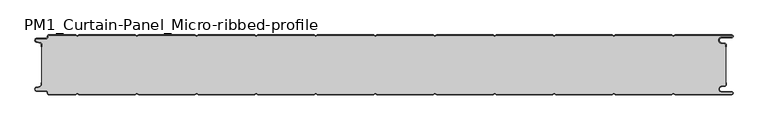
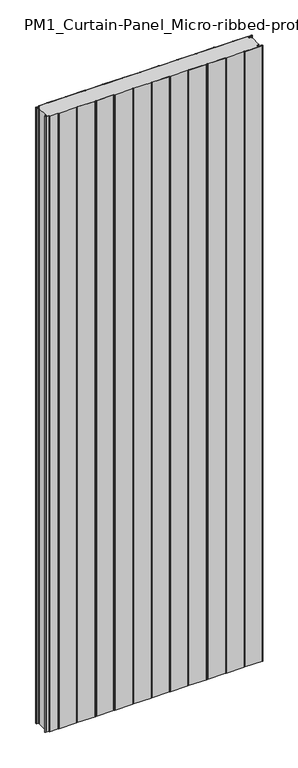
"""IFC4 building model written with IfcOpenShell, lengths in millimetres: plate geometry, PM1_Curtain-Panel_Micro-ribbed-profile : ACH_PM1_Stone-wool-Panel_100M."""

from ifc_helpers import new_model, si_unit, point, frame_2d, origin, origin_with_axes, place, context, project, spatial, polyline, circle_curve, trimmed, segment, composite_curve, outline, extrude, source, transform, mapped, element, save


def pm1_curtain_panel_micro_ribbed_profile_67889fbb(model_context):
    return source(origin(), model_context, "Body", "SweptSolid", [
        extrude(outline(composite_curve([segment(trimmed(circle_curve(frame_2d((-577.0, -15.878557)), 2.0), [point((-575.0, -15.878557))], [point((-576.5500978, -13.9298169))], True, "CARTESIAN"), True, "CONTINUOUS"), segment(polyline([(-576.5500978, -13.9298169), (-582.7098239, -12.507732)]), True, "CONTINUOUS"), segment(trimmed(circle_curve(frame_2d((-581.9, -9.0)), 3.6), [point((-582.7098239, -12.507732))], [point((-581.9, -5.4))], False, "CARTESIAN"), True, "CONTINUOUS"), segment(polyline([(-581.9, -5.4), (-566.4, -5.4)]), True, "CONTINUOUS"), segment(trimmed(circle_curve(frame_2d((-566.4, -3.4)), 2.0), [point((-566.4, -5.4))], [point((-564.4, -3.4))], True, "CARTESIAN"), True, "CONTINUOUS"), segment(polyline([(-564.4, -3.4), (-564.4, -2.0)]), True, "CONTINUOUS"), segment(trimmed(circle_curve(frame_2d((-562.4, -2.0)), 2.0), [point((-564.4, -2.0))], [point((-562.4, 0.0))], False, "CARTESIAN"), True, "CONTINUOUS"), segment(polyline([(-562.4, 0.0), (-517.0999995, 0.0), (-514.4, -1.5588455), (-511.7000005, 0.0), (-417.0999995, 0.0), (-414.4, -1.5588455), (-411.7000005, 0.0), (-317.0999995, 0.0), (-314.4, -1.5588455), (-311.7000005, 0.0), (-217.0999995, 0.0), (-214.4, -1.5588455), (-211.7000005, 0.0), (-117.0999995, 0.0), (-114.4, -1.5588455), (-111.7000005, 0.0), (-17.0999995, 0.0), (-14.4, -1.5588455), (-11.7000005, 0.0), (82.9000005, 0.0), (85.6, -1.5588455), (88.2999995, 0.0), (182.9000005, 0.0), (185.6, -1.5588455), (188.2999995, 0.0), (282.9000005, 0.0), (285.6, -1.5588455), (288.2999995, 0.0), (382.9000005, 0.0), (385.6, -1.5588455), (388.2999995, 0.0), (482.9000005, 0.0), (485.6, -1.5588455), (488.2999995, 0.0), (583.1, 0.0)]), True, "CONTINUOUS"), segment(trimmed(circle_curve(frame_2d((583.1, -2.5)), 2.5), [point((583.1, 0.0))], [point((583.1, -5.0))], False, "CARTESIAN"), True, "CONTINUOUS"), segment(polyline([(583.1, -5.0), (566.1, -5.0)]), True, "CONTINUOUS"), segment(trimmed(circle_curve(frame_2d((566.1, -9.0)), 4.0), [point((566.1, -5.0))], [point((565.405407, -12.939231))], True, "CARTESIAN"), True, "CONTINUOUS"), segment(polyline([(565.405407, -12.939231), (571.8514855, -14.0758491)]), True, "CONTINUOUS"), segment(trimmed(circle_curve(frame_2d((571.4, -16.6363492)), 2.6), [point((571.8514855, -14.0758491))], [point((574.0, -16.6363492))], False, "CARTESIAN"), True, "CONTINUOUS"), segment(polyline([(574.0, -16.6363492), (574.0, -20.0), (573.2, -20.0), (573.2, -16.6363492)]), True, "CONTINUOUS"), segment(trimmed(circle_curve(frame_2d((571.4, -16.6363492)), 1.8), [point((573.2, -16.6363492))], [point((571.7125669, -14.8636953))], True, "CARTESIAN"), True, "CONTINUOUS"), segment(polyline([(571.7125669, -14.8636953), (565.2664884, -13.7270772)]), True, "CONTINUOUS"), segment(trimmed(circle_curve(frame_2d((566.1, -9.0)), 4.8), [point((565.2664884, -13.7270772))], [point((566.1, -4.2))], False, "CARTESIAN"), True, "CONTINUOUS"), segment(polyline([(566.1, -4.2), (583.1, -4.2)]), True, "CONTINUOUS"), segment(trimmed(circle_curve(frame_2d((583.1, -2.5)), 1.7), [point((583.1, -4.2))], [point((583.1, -0.8))], True, "CARTESIAN"), True, "CONTINUOUS"), segment(polyline([(583.1, -0.8), (488.5143588, -0.8), (485.6, -2.482606), (482.6856412, -0.8), (388.5143588, -0.8), (385.6, -2.482606), (382.6856412, -0.8), (288.5143588, -0.8), (285.6, -2.482606), (282.6856412, -0.8), (188.5143588, -0.8), (185.6, -2.482606), (182.6856412, -0.8), (88.5143588, -0.8), (85.6, -2.482606), (82.6856412, -0.8), (-11.4856412, -0.8), (-14.4, -2.482606), (-17.3143588, -0.8), (-111.4856412, -0.8), (-114.4, -2.482606), (-117.3143588, -0.8), (-211.4856412, -0.8), (-214.4, -2.482606), (-217.3143588, -0.8), (-311.4856412, -0.8), (-314.4, -2.482606), (-317.3143588, -0.8), (-411.4856412, -0.8), (-414.4, -2.482606), (-417.3143588, -0.8), (-511.4856412, -0.8), (-514.4, -2.482606), (-517.3143588, -0.8), (-562.4, -0.8)]), True, "CONTINUOUS"), segment(trimmed(circle_curve(frame_2d((-562.4, -2.0)), 1.2), [point((-562.4, -0.8))], [point((-563.6, -2.0))], True, "CARTESIAN"), True, "CONTINUOUS"), segment(polyline([(-563.6, -2.0), (-563.6, -3.4)]), True, "CONTINUOUS"), segment(trimmed(circle_curve(frame_2d((-566.4, -3.4)), 2.8), [point((-563.6, -3.4))], [point((-566.4, -6.2))], False, "CARTESIAN"), True, "CONTINUOUS"), segment(polyline([(-566.4, -6.2), (-581.9, -6.2)]), True, "CONTINUOUS"), segment(trimmed(circle_curve(frame_2d((-581.9, -9.0)), 2.8), [point((-581.9, -6.2))], [point((-582.529863, -11.7282362))], True, "CARTESIAN"), True, "CONTINUOUS"), segment(polyline([(-582.529863, -11.7282362), (-576.370137, -13.150321)]), True, "CONTINUOUS"), segment(trimmed(circle_curve(frame_2d((-577.0, -15.878557)), 2.8), [point((-576.370137, -13.150321))], [point((-574.2, -15.878557))], False, "CARTESIAN"), True, "CONTINUOUS"), segment(polyline([(-574.2, -15.878557), (-574.2, -20.0), (-575.0, -20.0), (-575.0, -15.878557)]), True, "CONTINUOUS")], self_intersect=False)), origin_with_axes(), (0.0, 0.0, 1.0), 3500.0),
        extrude(outline(composite_curve([segment(polyline([(-574.2, -84.1214426), (-574.2, -15.8785573)]), True, "CONTINUOUS"), segment(trimmed(circle_curve(frame_2d((-577.0, -15.8785573)), 2.8), [point((-574.2, -15.8785573))], [point((-576.370137, -13.1503212))], True, "CARTESIAN"), True, "CONTINUOUS"), segment(polyline([(-576.370137, -13.1503212), (-582.5298631, -11.7282362)]), True, "CONTINUOUS"), segment(trimmed(circle_curve(frame_2d((-581.9, -9.0)), 2.8), [point((-582.5298631, -11.7282362))], [point((-581.9, -6.2))], False, "CARTESIAN"), True, "CONTINUOUS"), segment(polyline([(-581.9, -6.2), (-566.4000001, -6.2)]), True, "CONTINUOUS"), segment(trimmed(circle_curve(frame_2d((-566.4000001, -3.4)), 2.8), [point((-566.4000001, -6.2))], [point((-563.6000001, -3.4))], True, "CARTESIAN"), True, "CONTINUOUS"), segment(polyline([(-563.6000001, -3.4), (-563.6000001, -2.0)]), True, "CONTINUOUS"), segment(trimmed(circle_curve(frame_2d((-562.4000001, -2.0)), 1.2), [point((-563.6000001, -2.0))], [point((-562.4000001, -0.8))], False, "CARTESIAN"), True, "CONTINUOUS"), segment(polyline([(-562.4000001, -0.8), (-517.3143589, -0.8), (-514.4000001, -2.482606), (-511.4856412, -0.8), (-417.3143589, -0.8), (-414.4000001, -2.482606), (-411.4856412, -0.8), (-317.3143589, -0.8), (-314.4000001, -2.482606), (-311.4856412, -0.8), (-217.3143589, -0.8), (-214.4000001, -2.482606), (-211.4856412, -0.8), (-117.3143589, -0.8), (-114.4000001, -2.482606), (-111.4856412, -0.8), (-17.3143589, -0.8), (-14.4000001, -2.482606), (-11.4856412, -0.8), (82.6856411, -0.8), (85.5999999, -2.482606), (88.5143588, -0.8), (182.6856411, -0.8), (185.5999999, -2.482606), (188.5143588, -0.8), (282.6856411, -0.8), (285.5999999, -2.482606), (288.5143588, -0.8), (382.6856411, -0.8), (385.5999999, -2.482606), (388.5143588, -0.8), (482.6856411, -0.8), (485.6, -2.482606), (488.5143588, -0.8), (583.1, -0.8)]), True, "CONTINUOUS"), segment(trimmed(circle_curve(frame_2d((583.1, -2.5)), 1.7), [point((583.1, -0.8))], [point((583.1, -4.2))], False, "CARTESIAN"), True, "CONTINUOUS"), segment(polyline([(583.1, -4.2), (566.1, -4.2)]), True, "CONTINUOUS"), segment(trimmed(circle_curve(frame_2d((566.1, -9.0)), 4.8), [point((566.1, -4.2))], [point((565.2664883, -13.7270771))], True, "CARTESIAN"), True, "CONTINUOUS"), segment(polyline([(565.2664883, -13.7270771), (571.7125668, -14.8636953)]), True, "CONTINUOUS"), segment(trimmed(circle_curve(frame_2d((571.4, -16.6363492)), 1.8), [point((571.7125668, -14.8636953))], [point((573.2, -16.6363492))], False, "CARTESIAN"), True, "CONTINUOUS"), segment(polyline([(573.2, -16.6363492), (573.2, -83.3636508)]), True, "CONTINUOUS"), segment(trimmed(circle_curve(frame_2d((571.4, -83.3636508)), 1.8), [point((573.2, -83.3636508))], [point((571.7125668, -85.1363047))], False, "CARTESIAN"), True, "CONTINUOUS"), segment(polyline([(571.7125668, -85.1363047), (565.2664883, -86.2729229)]), True, "CONTINUOUS"), segment(trimmed(circle_curve(frame_2d((566.1, -91.0)), 4.8), [point((565.2664883, -86.2729229))], [point((566.1, -95.8))], True, "CARTESIAN"), True, "CONTINUOUS"), segment(polyline([(566.1, -95.8), (583.1, -95.8)]), True, "CONTINUOUS"), segment(trimmed(circle_curve(frame_2d((583.1, -97.5)), 1.7), [point((583.1, -95.8))], [point((583.1, -99.2))], False, "CARTESIAN"), True, "CONTINUOUS"), segment(polyline([(583.1, -99.2), (488.5143588, -99.2), (485.6, -97.517394), (482.6856411, -99.2), (388.5143588, -99.2), (385.5999999, -97.517394), (382.6856411, -99.2), (288.5143588, -99.2), (285.5999999, -97.517394), (282.6856411, -99.2), (188.5143588, -99.2), (185.5999999, -97.517394), (182.6856411, -99.2), (88.5143588, -99.2), (85.5999999, -97.517394), (82.6856411, -99.2), (-11.4856412, -99.2), (-14.4000001, -97.517394), (-17.3143589, -99.2), (-111.4856412, -99.2), (-114.4000001, -97.517394), (-117.3143589, -99.2), (-211.4856412, -99.2), (-214.4000001, -97.517394), (-217.3143589, -99.2), (-311.4856412, -99.2), (-314.4000001, -97.517394), (-317.3143589, -99.2), (-411.4856412, -99.2), (-414.4000001, -97.517394), (-417.3143589, -99.2), (-511.4856412, -99.2), (-514.4000001, -97.517394), (-517.3143589, -99.2), (-562.4000001, -99.2)]), True, "CONTINUOUS"), segment(trimmed(circle_curve(frame_2d((-562.4000001, -98.0)), 1.2), [point((-562.4000001, -99.2))], [point((-563.6000001, -98.0))], False, "CARTESIAN"), True, "CONTINUOUS"), segment(polyline([(-563.6000001, -98.0), (-563.6000001, -96.6)]), True, "CONTINUOUS"), segment(trimmed(circle_curve(frame_2d((-566.4000001, -96.6)), 2.8), [point((-563.6000001, -96.6))], [point((-566.4000001, -93.8))], True, "CARTESIAN"), True, "CONTINUOUS"), segment(polyline([(-566.4000001, -93.8), (-581.9, -93.8)]), True, "CONTINUOUS"), segment(trimmed(circle_curve(frame_2d((-581.9, -91.0)), 2.8), [point((-581.9, -93.8))], [point((-582.5298631, -88.2717638))], False, "CARTESIAN"), True, "CONTINUOUS"), segment(polyline([(-582.5298631, -88.2717638), (-576.370137, -86.8496788)]), True, "CONTINUOUS"), segment(trimmed(circle_curve(frame_2d((-577.0, -84.1214426)), 2.8), [point((-576.370137, -86.8496788))], [point((-574.2, -84.1214426))], True, "CARTESIAN"), True, "CONTINUOUS")], self_intersect=False)), origin_with_axes(), (0.0, 0.0, 1.0), 3500.0),
        extrude(outline(composite_curve([segment(polyline([(-575.0, -84.121443), (-575.0, -80.0), (-574.2, -80.0), (-574.2, -84.121443)]), True, "CONTINUOUS"), segment(trimmed(circle_curve(frame_2d((-577.0, -84.121443)), 2.8), [point((-574.2, -84.121443))], [point((-576.370137, -86.8496792))], False, "CARTESIAN"), True, "CONTINUOUS"), segment(polyline([(-576.370137, -86.8496792), (-582.529863, -88.271764)]), True, "CONTINUOUS"), segment(trimmed(circle_curve(frame_2d((-581.9, -91.0)), 2.8), [point((-582.529863, -88.271764))], [point((-581.9, -93.8))], True, "CARTESIAN"), True, "CONTINUOUS"), segment(polyline([(-581.9, -93.8), (-566.4, -93.8)]), True, "CONTINUOUS"), segment(trimmed(circle_curve(frame_2d((-566.4, -96.6)), 2.8), [point((-566.4, -93.8))], [point((-563.6, -96.6))], False, "CARTESIAN"), True, "CONTINUOUS"), segment(polyline([(-563.6, -96.6), (-563.6, -98.0)]), True, "CONTINUOUS"), segment(trimmed(circle_curve(frame_2d((-562.4, -98.0)), 1.2), [point((-563.6, -98.0))], [point((-562.4, -99.2))], True, "CARTESIAN"), True, "CONTINUOUS"), segment(polyline([(-562.4, -99.2), (-517.3143588, -99.2), (-514.4, -97.517394), (-511.4856412, -99.2), (-417.3143588, -99.2), (-414.4, -97.517394), (-411.4856412, -99.2), (-317.3143588, -99.2), (-314.4, -97.517394), (-311.4856412, -99.2), (-217.3143588, -99.2), (-214.4, -97.517394), (-211.4856412, -99.2), (-117.3143588, -99.2), (-114.4, -97.517394), (-111.4856412, -99.2), (-17.3143588, -99.2), (-14.4, -97.517394), (-11.4856412, -99.2), (82.6856412, -99.2), (85.6, -97.517394), (88.5143588, -99.2), (182.6856412, -99.2), (185.6, -97.517394), (188.5143588, -99.2), (282.6856412, -99.2), (285.6, -97.517394), (288.5143588, -99.2), (382.6856412, -99.2), (385.6, -97.517394), (388.5143588, -99.2), (482.6856412, -99.2), (485.6, -97.517394), (488.5143588, -99.2), (583.1, -99.2)]), True, "CONTINUOUS"), segment(trimmed(circle_curve(frame_2d((583.1, -97.5)), 1.7), [point((583.1, -99.2))], [point((583.1, -95.8))], True, "CARTESIAN"), True, "CONTINUOUS"), segment(polyline([(583.1, -95.8), (566.1, -95.8)]), True, "CONTINUOUS"), segment(trimmed(circle_curve(frame_2d((566.1, -91.0)), 4.8), [point((566.1, -95.8))], [point((565.2664884, -86.2729229))], False, "CARTESIAN"), True, "CONTINUOUS"), segment(polyline([(565.2664884, -86.2729229), (571.7125669, -85.1363047)]), True, "CONTINUOUS"), segment(trimmed(circle_curve(frame_2d((571.4, -83.3636508)), 1.8), [point((571.7125669, -85.1363047))], [point((573.2, -83.3636508))], True, "CARTESIAN"), True, "CONTINUOUS"), segment(polyline([(573.2, -83.3636508), (573.2, -80.0), (574.0, -80.0), (574.0, -83.3636508)]), True, "CONTINUOUS"), segment(trimmed(circle_curve(frame_2d((571.4, -83.3636508)), 2.6), [point((574.0, -83.3636508))], [point((571.8514855, -85.9241509))], False, "CARTESIAN"), True, "CONTINUOUS"), segment(polyline([(571.8514855, -85.9241509), (565.405407, -87.060769)]), True, "CONTINUOUS"), segment(trimmed(circle_curve(frame_2d((566.1, -91.0)), 4.0), [point((565.405407, -87.060769))], [point((566.1, -95.0))], True, "CARTESIAN"), True, "CONTINUOUS"), segment(polyline([(566.1, -95.0), (583.1, -95.0)]), True, "CONTINUOUS"), segment(trimmed(circle_curve(frame_2d((583.1, -97.5)), 2.5), [point((583.1, -95.0))], [point((583.1, -100.0))], False, "CARTESIAN"), True, "CONTINUOUS"), segment(polyline([(583.1, -100.0), (488.2999995, -100.0), (485.6, -98.4411545), (482.9000005, -100.0), (388.2999995, -100.0), (385.6, -98.4411545), (382.9000005, -100.0), (288.2999995, -100.0), (285.6, -98.4411545), (282.9000005, -100.0), (188.2999995, -100.0), (185.6, -98.4411545), (182.9000005, -100.0), (88.2999995, -100.0), (85.6, -98.4411545), (82.9000005, -100.0), (-11.7000005, -100.0), (-14.4, -98.4411545), (-17.0999995, -100.0), (-111.7000005, -100.0), (-114.4, -98.4411545), (-117.0999995, -100.0), (-211.7000005, -100.0), (-214.4, -98.4411545), (-217.0999995, -100.0), (-311.7000005, -100.0), (-314.4, -98.4411545), (-317.0999995, -100.0), (-411.7000005, -100.0), (-414.4, -98.4411545), (-417.0999995, -100.0), (-511.7000005, -100.0), (-514.4, -98.4411545), (-517.0999995, -100.0), (-562.4, -100.0)]), True, "CONTINUOUS"), segment(trimmed(circle_curve(frame_2d((-562.4, -98.0)), 2.0), [point((-562.4, -100.0))], [point((-564.4, -98.0))], False, "CARTESIAN"), True, "CONTINUOUS"), segment(polyline([(-564.4, -98.0), (-564.4, -96.6)]), True, "CONTINUOUS"), segment(trimmed(circle_curve(frame_2d((-566.4, -96.6)), 2.0), [point((-564.4, -96.6))], [point((-566.4, -94.6))], True, "CARTESIAN"), True, "CONTINUOUS"), segment(polyline([(-566.4, -94.6), (-581.9, -94.6)]), True, "CONTINUOUS"), segment(trimmed(circle_curve(frame_2d((-581.9, -91.0)), 3.6), [point((-581.9, -94.6))], [point((-582.7098239, -87.4922678))], False, "CARTESIAN"), True, "CONTINUOUS"), segment(polyline([(-582.7098239, -87.4922678), (-576.5500979, -86.070183)]), True, "CONTINUOUS"), segment(trimmed(circle_curve(frame_2d((-577.0, -84.121443)), 2.0), [point((-576.5500979, -86.070183))], [point((-575.0, -84.121443))], True, "CARTESIAN"), True, "CONTINUOUS")], self_intersect=False)), origin_with_axes(), (0.0, 0.0, 1.0), 3500.0),
    ])


if __name__ == "__main__":
    model = new_model("IFC4")
    model_context = context("Model", 3, world=origin())
    ifc_project = project(units=[si_unit("LENGTHUNIT", "METRE", prefix="MILLI")], contexts=[model_context])
    site = spatial("IfcSite", under=ifc_project)
    building = spatial("IfcBuilding", under=site)
    placement = place(None, origin())
    pm1_curtain_panel_micro_ribbed_profile_shape = pm1_curtain_panel_micro_ribbed_profile_67889fbb(model_context)
    element("IfcPlate", 1, ObjectType="PM1_Curtain-Panel_Micro-ribbed-profile : ACH_PM1_Stone-wool-Panel_100M", at=placement, inside=building, context=model_context, shape_type="MappedRepresentation", body=[
        mapped(pm1_curtain_panel_micro_ribbed_profile_shape, transform((0.0, 0.0, 0.0), x_axis=(1.0, 0.0, 0.0), y_axis=(0.0, 1.0, 0.0), z_axis=(0.0, 0.0, 1.0))),
    ])
    save(model, "model.ifc")
